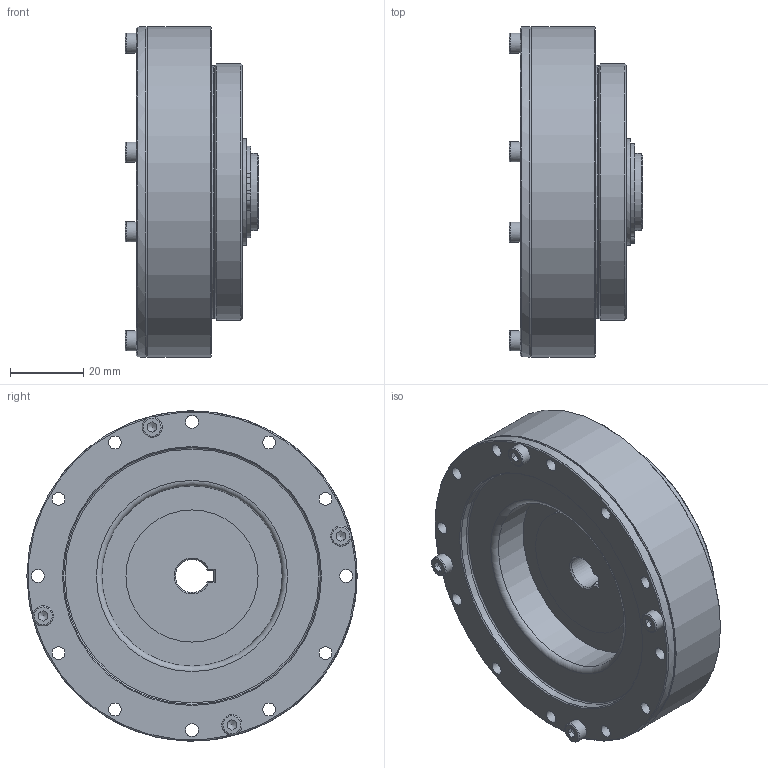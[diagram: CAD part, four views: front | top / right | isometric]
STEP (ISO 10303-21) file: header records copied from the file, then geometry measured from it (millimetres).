
FILE_DESCRIPTION(/* description */ (''),/* implementation_level */ '2;1');
FILE_NAME(/* name */ '\\Hiwin.tw\dfs\TB00F\研發課二組\\X2\6A5F5BC67D1A\X0\\1.設計\01-DT\DT-圖面\2.\X2\7D4454085716\X0\\模型\DGH-PO\DGH-20-PO\DGH-20-XX-PO_v2.stp',/* time_stamp */ '2024-09-27T14:21:05+08:00',/* author */ ('chiayu.chen'),/* organization */ (''),/* preprocessor_version */ 'ST-DEVELOPER v15.2',/* originating_system */ 'Autodesk Inventor 2014',/* authorisation */ '');
FILE_SCHEMA (('AUTOMOTIVE_DESIGN { 1 0 10303 214 3 1 1 }'));
Length unit declared in the file: centimetre
Products named in the file (1): AK0004F1
Bounding box: 36.5 x 90 x 90 mm (x, y, z)
Volume: 127713.2 mm3; surface area: 32700.8 mm2
Topology: 1 solids, 13 shells, 529 faces, 1292 edges, 815 vertices
Faces by surface type: cylinder 200, plane 186, torus 65, cone 55, sphere 23
Full cylindrical faces by diameter (mm): 2 x2, 2.013 x4, 2.459 x20, 3 x8, 3.5 x36, 5.5 x8, 6.5 x4, 20 x1, 21 x1, 29 x1, 36 x1, 38.15 x1, 46.64 x1, 49.07 x1, 49.12 x1, 69 x1, 70 x2, 78 x1, 90 x2
Entity records: 13599 total; most frequent: DIRECTION 2618, CARTESIAN_POINT 2334, ORIENTED_EDGE 2008, AXIS2_PLACEMENT_3D 1190, EDGE_CURVE 958, EDGE_LOOP 784, VERTEX_POINT 668, CIRCLE 656
